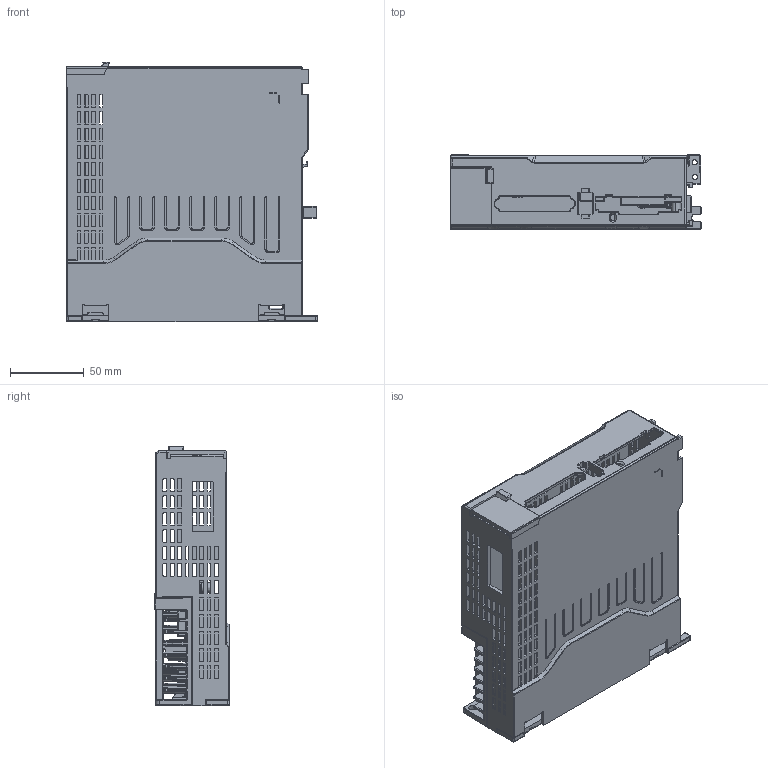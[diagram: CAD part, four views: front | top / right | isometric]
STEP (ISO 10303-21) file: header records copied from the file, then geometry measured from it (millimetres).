
FILE_DESCRIPTION((''),'2;1');
FILE_NAME('L2C_ASM','2024-05-22T',('think'),(''),'CREO PARAMETRIC BY PTC INC, 2016130','CREO PARAMETRIC BY PTC INC, 2016130','');
FILE_SCHEMA(('CONFIG_CONTROL_DESIGN'));
Products named in the file (8): ADMI11C8CA7657AK_2_7_1; DBJ-SRQ-01_7_1; ADMI11C8CA7657AK_4_7_1; ADMI11C8CA7657AK_ASM_7_ASM_1_ASM; FAN_3010_7_1; 00-0710_ASM_7_ASM_1_ASM; 00-0710_ASM_ASM_1_ASM; L2C_ASM
Assembly tree (7 placements, depth 5):
  L2C_ASM
    00-0710_ASM_ASM_1_ASM
      00-0710_ASM_7_ASM_1_ASM
        ADMI11C8CA7657AK_ASM_7_ASM_1_ASM
          ADMI11C8CA7657AK_2_7_1
          DBJ-SRQ-01_7_1
          ADMI11C8CA7657AK_4_7_1
        FAN_3010_7_1
Bounding box: 170.02 x 50.51 x 175.8 mm (x, y, z)
Volume: 146209.2 mm3; surface area: 234165.9 mm2
Topology: 4 solids, 5 shells, 4879 faces, 12987 edges, 7954 vertices
Faces by surface type: cylinder 1937, plane 1722, bspline 694, sphere 259, torus 171, cone 93, extrusion 3
Entity records: 188014 total; most frequent: CARTESIAN_POINT 73204, ORIENTED_EDGE 25492, DIRECTION 21616, EDGE_CURVE 12746, VERTEX_POINT 7954, AXIS2_PLACEMENT_3D 7399, VECTOR 6818, LINE 6815
